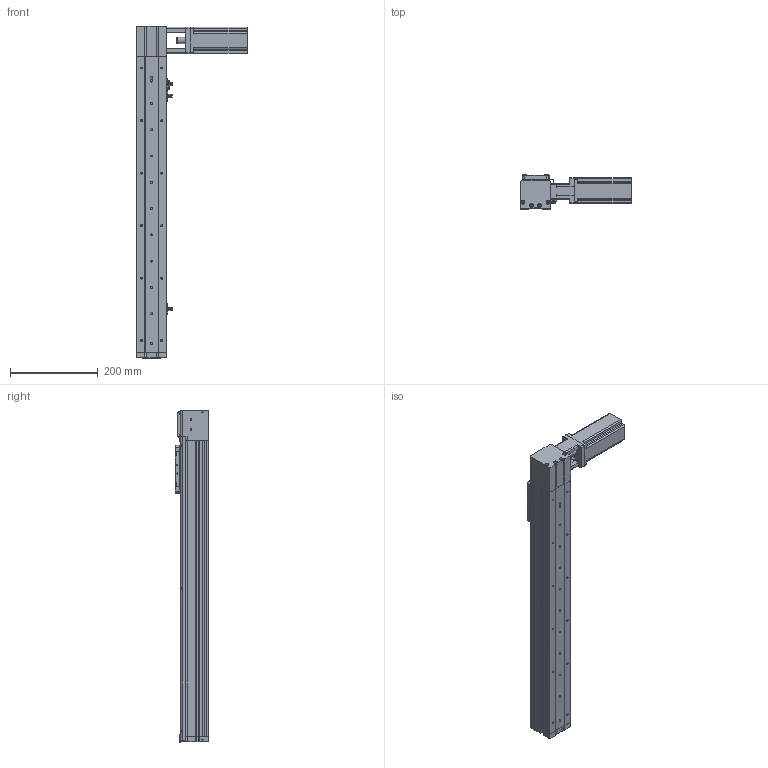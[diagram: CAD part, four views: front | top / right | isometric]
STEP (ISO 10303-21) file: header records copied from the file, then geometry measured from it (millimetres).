
FILE_DESCRIPTION (( 'STEP AP214' ), '1' );
FILE_NAME ('KSD68BS-S500-MRT-CR.STEP', '2019-08-27T07:00:10', ( '微软用户' ), ( '微软中国' ), 'SwSTEP 2.0', 'SolidWorks 2014', '' );
FILE_SCHEMA (( 'AUTOMOTIVE_DESIGN' ));
Length unit declared in the file: millimetre
Products named in the file (13): 100遵鎮湛假蚾啣1; KSD68BS 500行程盖板全封闭; 68遵裔啣揤啣1; 68宽单导轨全封闭丝杆传动安装板1防护罩; KSD68BS 500行程侧板全封闭; 68宽单导轨全封闭同步带端板; 68单导轨全封闭同步带电机座左; 68单导轨全封闭同步带安装板; 感应片68宽全封闭; U倰嫖萇EEㄜSX672; 台达ECMA－C20604AS伺服电机（400W); KSD68BS 500行程底板全封闭; KSD68BS-S500-MRT-CR
Assembly tree (16 placements, depth 2):
  KSD68BS-S500-MRT-CR
    KSD68BS 500行程底板全封闭
    台达ECMA－C20604AS伺服电机（400W)
    U倰嫖萇EEㄜSX672  x3
    感应片68宽全封闭
    68单导轨全封闭同步带安装板
    68单导轨全封闭同步带电机座左
    68宽单导轨全封闭同步带端板
    KSD68BS 500行程侧板全封闭  x2
    68宽单导轨全封闭丝杆传动安装板1防护罩
    68遵裔啣揤啣1  x2
    KSD68BS 500行程盖板全封闭
    100遵鎮湛假蚾啣1
Bounding box: 252.7 x 77 x 758.1 mm (x, y, z)
Volume: 1811996 mm3; surface area: 615411.6 mm2
Topology: 17 solids, 17 shells, 1339 faces, 3776 edges, 2424 vertices
Faces by surface type: cylinder 605, plane 598, cone 136
Entity records: 41700 total; most frequent: CARTESIAN_POINT 7041, DIRECTION 6239, ORIENTED_EDGE 5988, EDGE_CURVE 2994, AXIS2_PLACEMENT_3D 2226, VERTEX_POINT 1962, VECTOR 1787, LINE 1787
